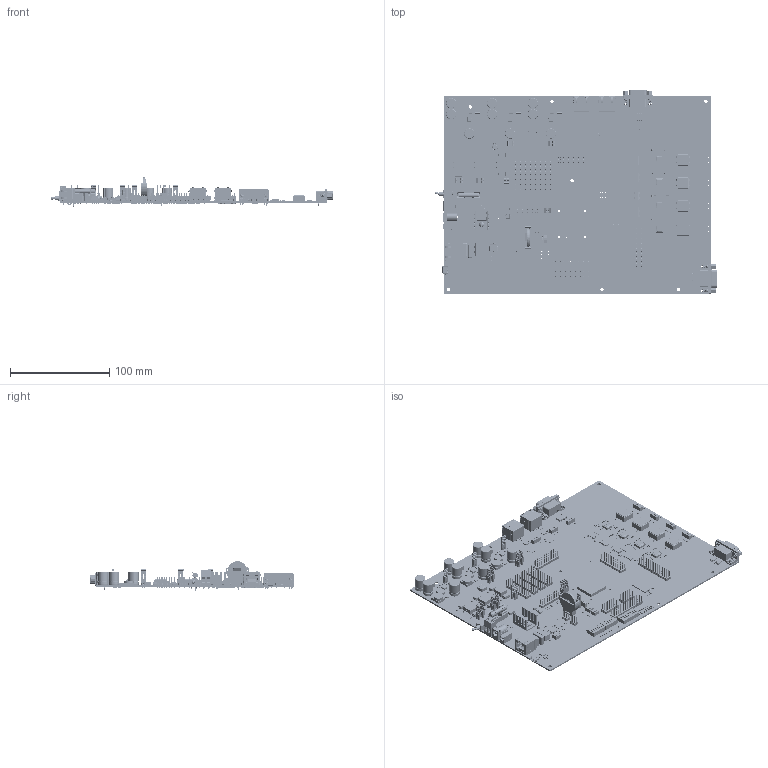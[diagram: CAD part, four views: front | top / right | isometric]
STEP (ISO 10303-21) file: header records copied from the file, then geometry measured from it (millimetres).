
FILE_DESCRIPTION(('Open CASCADE Model'),'2;1');
FILE_NAME('Open CASCADE Shape Model','2020-10-29T10:45:05',('Author'),( 'Open CASCADE'),'Open CASCADE STEP processor 6.8','Open CASCADE 6.8' ,'Unknown');
FILE_SCHEMA(('AUTOMOTIVE_DESIGN { 1 0 10303 214 1 1 1 1 }'));
Length unit declared in the file: millimetre
Products named in the file (605): PCB; Board; Open CASCADE STEP translator 6.8 4.1.1; R167; RESC0805; R166; R165; R164; DD10; ﾍ04.16-1ﾂ; DD9; DD6; DD5; VT9; SOT-23; VT8; VT7; VT6; VT5; VT4; VT3; VT2; VH18; KPT-2012_GR; VH17; KPT-2012_red; VH16; VH15; VH14; VH13; VH12; VH11; TR4; TIL-5V; TR3; TR2; TR1; SA10; EDG101S; SA9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
Assembly tree (1592 placements, depth 5):
  PCB
    Board
      Open CASCADE STEP translator 6.8 4.1.1
    R167
      RESC0805
    R166
      RESC0805
    R165
      RESC0805
    R164
      RESC0805
    DD10
      ﾍ04.16-1ﾂ
    DD9
      ﾍ04.16-1ﾂ
    DD6
      ﾍ04.16-1ﾂ
    DD5
      ﾍ04.16-1ﾂ
    VT9
      SOT-23
    VT8
      SOT-23
    VT7
      SOT-23
    VT6
      SOT-23
    VT5
      SOT-23
    VT4
      SOT-23
    VT3
      SOT-23
    VT2
      SOT-23
    VH18
      KPT-2012_GR
    VH17
      KPT-2012_red
    VH16
      KPT-2012_GR
    VH15
      KPT-2012_red
    VH14
      KPT-2012_GR
    VH13
      KPT-2012_red
    VH12
      KPT-2012_GR
    VH11
      KPT-2012_red
    TR4
      TIL-5V
    TR3
      TIL-5V
    TR2
      TIL-5V
    TR1
      TIL-5V
    SA10
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Bounding box: 285.51 x 206.98 x 29.82 mm (x, y, z)
Volume: 144436 mm3; surface area: 194340.6 mm2
Topology: 1567 solids, 1575 shells, 38171 faces, 93554 edges, 59075 vertices
Faces by surface type: plane 28914, cylinder 5611, bspline 2750, sphere 472, torus 182, cone 180, extrusion 54, revolution 8
Full cylindrical faces by diameter (mm): 0.5 x3, 0.508 x2, 0.635 x5, 0.7 x4, 0.8 x77, 0.9 x437, 1 x20, 1.05 x2, 1.09 x18, 1.2 x13, 1.281 x3, 1.3 x3, 1.4 x2, 1.5 x3, 2.2 x4, 2.5 x1, 2.54 x2, 2.605 x1, 3 x1, 3.2 x5, 3.25 x2, 3.26 x4, 3.5 x9, 3.532 x2, 3.8 x2, 3.82 x1, 4.318 x1, 4.5 x1, 4.572 x1, 6 x1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
Entity records: 317864 total; most frequent: CARTESIAN_POINT 77350, DIRECTION 40715, ORIENTED_EDGE 40559, EDGE_CURVE 20281, VECTOR 14633, LINE 14615, VERTEX_POINT 13070, AXIS2_PLACEMENT_3D 13037
